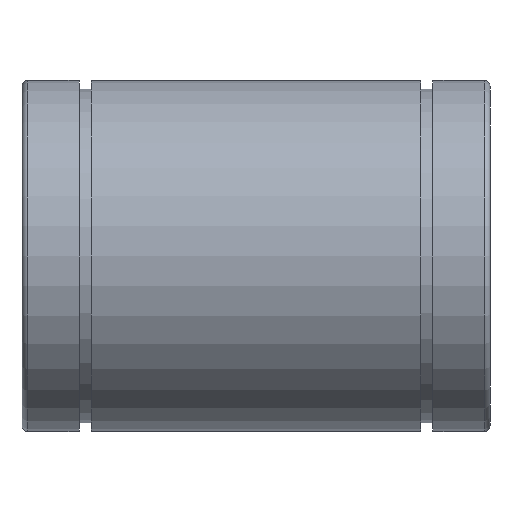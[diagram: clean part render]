
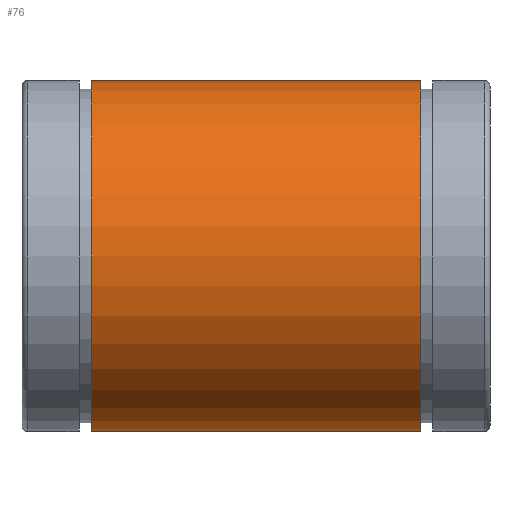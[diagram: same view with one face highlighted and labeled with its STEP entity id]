
A CAD part, front view. The second image highlights one B-rep face of the part: STEP entity #76.
In plain terms, the highlighted cylindrical face has radius 30 mm (diameter 60 mm), a full revolution.
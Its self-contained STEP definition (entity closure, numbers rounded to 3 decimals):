
#76=ADVANCED_FACE('',(#93,#94),#95,.T.);
#93=FACE_OUTER_BOUND('',#135,.T.);
#94=FACE_OUTER_BOUND('',#136,.T.);
#95=CYLINDRICAL_SURFACE('',#137,30.0);
#135=EDGE_LOOP('',(#179));
#136=EDGE_LOOP('',(#180));
#137=AXIS2_PLACEMENT_3D('',#181,#182,#183);
#179=ORIENTED_EDGE('',*,*,#246,.F.);
#180=ORIENTED_EDGE('',*,*,#247,.F.);
#181=CARTESIAN_POINT('',(0.,0.0,0.0));
#182=DIRECTION('',(1.0,-0.0,-0.0));
#183=DIRECTION('',(0.0,1.0,0.0));
#246=EDGE_CURVE('',#262,#262,#263,.T.);
#247=EDGE_CURVE('',#264,#264,#265,.T.);
#262=VERTEX_POINT('',#290);
#263=CIRCLE('',#291,30.0);
#264=VERTEX_POINT('',#292);
#265=CIRCLE('',#293,30.0);
#290=CARTESIAN_POINT('',(-28.15,-30.0,0.0));
#291=AXIS2_PLACEMENT_3D('',#320,#321,#322);
#292=CARTESIAN_POINT('',(28.15,30.0,0.0));
#293=AXIS2_PLACEMENT_3D('',#323,#324,#325);
#320=CARTESIAN_POINT('',(-28.15,0.,0.0));
#321=DIRECTION('',(-1.0,0.0,0.0));
#322=DIRECTION('',(0.0,-1.0,0.0));
#323=CARTESIAN_POINT('',(28.15,0.,0.0));
#324=DIRECTION('',(1.0,0.0,0.0));
#325=DIRECTION('',(0.0,1.0,0.0));
